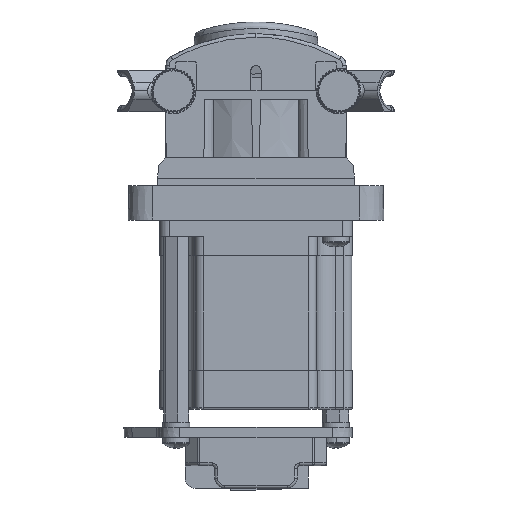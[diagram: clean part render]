
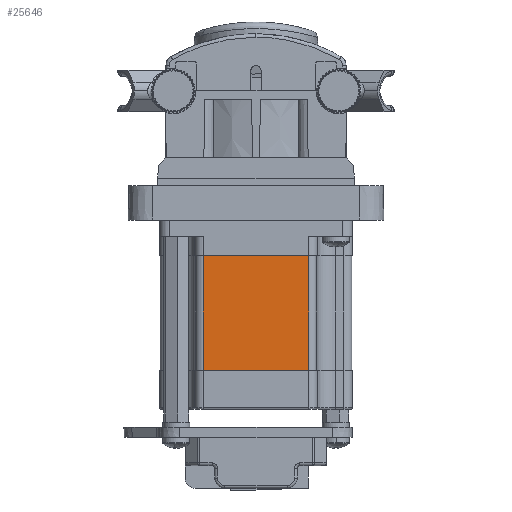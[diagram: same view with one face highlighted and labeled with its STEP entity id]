
A CAD part, front view. The second image highlights one B-rep face of the part: STEP entity #25646.
In plain terms, the highlighted planar face has unit normal (0, -1, 0).
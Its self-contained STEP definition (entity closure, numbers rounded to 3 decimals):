
#324 = LINE ( 'NONE', #51166, #55769 ) ;
#3892 = LINE ( 'NONE', #4846, #5595 ) ;
#4846 = CARTESIAN_POINT ( 'NONE',  ( -15.57, -28.3, 65.26 ) ) ;
#5595 = VECTOR ( 'NONE', #42457, 1000. ) ;
#7235 = ORIENTED_EDGE ( 'NONE', *, *, #56354, .T. ) ;
#9729 = CARTESIAN_POINT ( 'NONE',  ( -15.57, -28.3, -25.85 ) ) ;
#13199 = CARTESIAN_POINT ( 'NONE',  ( 15.57, -28.3, -59.85 ) ) ;
#13605 = DIRECTION ( 'NONE',  ( -1., 0., 0. ) ) ;
#15559 = ORIENTED_EDGE ( 'NONE', *, *, #66601, .T. ) ;
#22458 = DIRECTION ( 'NONE',  ( 0., 0., -1. ) ) ;
#25646 = ADVANCED_FACE ( 'NONE', ( #45894 ), #42677, .T. ) ;
#26720 = DIRECTION ( 'NONE',  ( 1., 0., 0. ) ) ;
#29756 = VERTEX_POINT ( 'NONE', #36817 ) ;
#30219 = ORIENTED_EDGE ( 'NONE', *, *, #48877, .F. ) ;
#30748 = EDGE_LOOP ( 'NONE', ( #7235, #15559, #30219, #55606 ) ) ;
#31842 = VERTEX_POINT ( 'NONE', #38397 ) ;
#35650 = VECTOR ( 'NONE', #50767, 1000. ) ;
#36817 = CARTESIAN_POINT ( 'NONE',  ( 15.57, -28.3, -59.85 ) ) ;
#38397 = CARTESIAN_POINT ( 'NONE',  ( -15.57, -28.3, -59.85 ) ) ;
#39081 = AXIS2_PLACEMENT_3D ( 'NONE', #48048, #58813, #26720 ) ;
#39804 = VECTOR ( 'NONE', #22458, 1000. ) ;
#41902 = VERTEX_POINT ( 'NONE', #45415 ) ;
#42457 = DIRECTION ( 'NONE',  ( 0., 0., -1. ) ) ;
#42677 = PLANE ( 'NONE',  #39081 ) ;
#45415 = CARTESIAN_POINT ( 'NONE',  ( 15.57, -28.3, -25.85 ) ) ;
#45894 = FACE_OUTER_BOUND ( 'NONE', #30748, .T. ) ;
#48048 = CARTESIAN_POINT ( 'NONE',  ( 15.57, -28.3, 65.26 ) ) ;
#48877 = EDGE_CURVE ( 'NONE', #29756, #31842, #64200, .T. ) ;
#49784 = EDGE_CURVE ( 'NONE', #41902, #29756, #54010, .T. ) ;
#50767 = DIRECTION ( 'NONE',  ( -1., 0., 0. ) ) ;
#51166 = CARTESIAN_POINT ( 'NONE',  ( 15.57, -28.3, -25.85 ) ) ;
#54010 = LINE ( 'NONE', #54589, #39804 ) ;
#54589 = CARTESIAN_POINT ( 'NONE',  ( 15.57, -28.3, 65.26 ) ) ;
#55606 = ORIENTED_EDGE ( 'NONE', *, *, #49784, .F. ) ;
#55769 = VECTOR ( 'NONE', #13605, 1000. ) ;
#56354 = EDGE_CURVE ( 'NONE', #41902, #67022, #324, .T. ) ;
#58813 = DIRECTION ( 'NONE',  ( 0., -1., 0. ) ) ;
#64200 = LINE ( 'NONE', #13199, #35650 ) ;
#66601 = EDGE_CURVE ( 'NONE', #67022, #31842, #3892, .T. ) ;
#67022 = VERTEX_POINT ( 'NONE', #9729 ) ;
